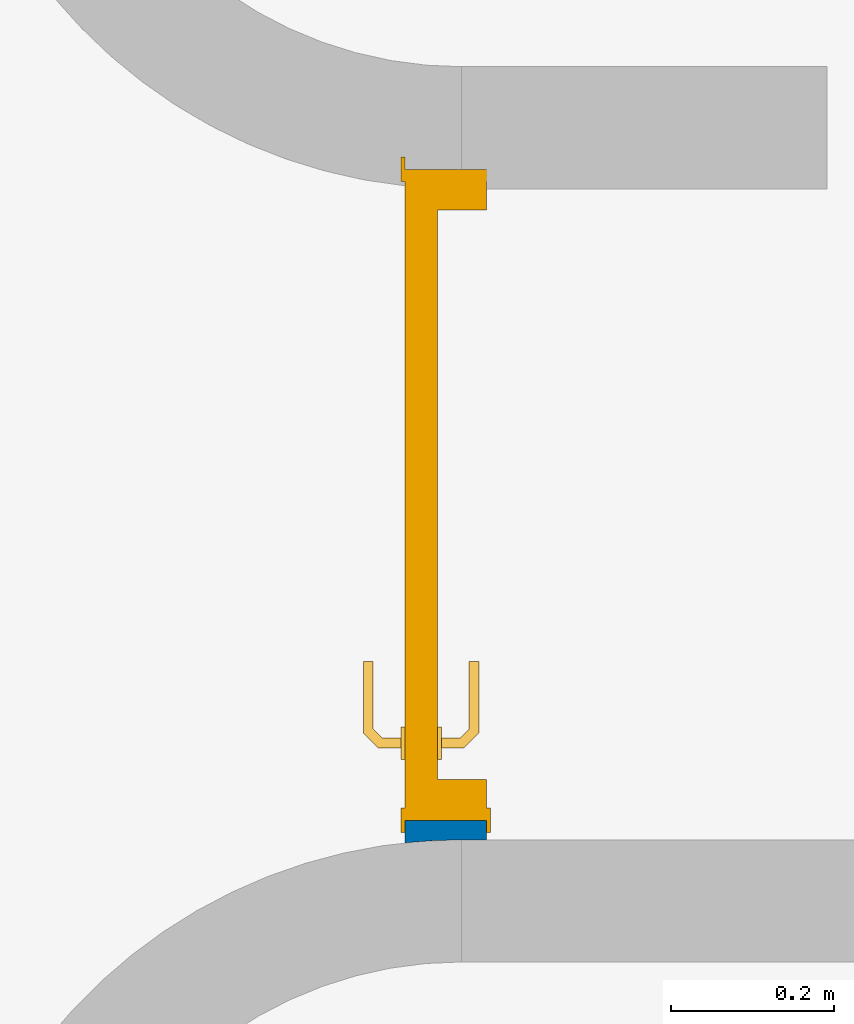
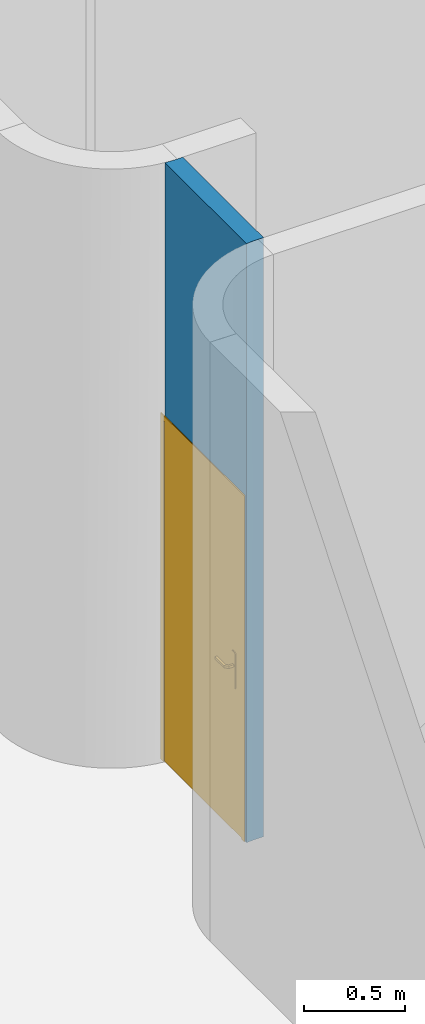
# One storey, part 8 of 9: 1 door, 1 wall, 1 opening.
"""IFC2X3 building model written with IfcOpenShell, lengths in metres."""

from ifc_helpers import new_model, entity, si_unit, converted_unit, derived_unit, direction, frame, frame_2d, origin, place, context, subcontext, project, spatial, rectangle, extrude, faceted_brep, source, transform, mapped, material, material_list, layer, layer_set, type_object, type_shapes, element, fill, save


model = new_model("IFC2X3")

# Units and contexts
model_context = context("Model", 3, precision=1e-05, world=origin(), true_north=direction((6.12303176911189e-17, 1.0)))
body_context = subcontext(model_context, "Body", "Model", "MODEL_VIEW")
ifc_project = project(units=[si_unit("LENGTHUNIT", "METRE"), si_unit("AREAUNIT", "SQUARE_METRE"), si_unit("VOLUMEUNIT", "CUBIC_METRE"), converted_unit("PLANEANGLEUNIT", "DEGREE", entity("IfcRatioMeasure", 0.0174532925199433), si_unit("PLANEANGLEUNIT", "RADIAN"), dimensions=[0, 0, 0, 0, 0, 0, 0]), si_unit("MASSUNIT", "GRAM", prefix="KILO"), derived_unit("MASSDENSITYUNIT", [(si_unit("MASSUNIT", "GRAM", prefix="KILO"), 1), (si_unit("LENGTHUNIT", "METRE"), -3)]), derived_unit("MOMENTOFINERTIAUNIT", [(si_unit("LENGTHUNIT", "METRE"), 4)]), si_unit("TIMEUNIT", "SECOND"), si_unit("FREQUENCYUNIT", "HERTZ"), si_unit("THERMODYNAMICTEMPERATUREUNIT", "DEGREE_CELSIUS"), derived_unit("THERMALTRANSMITTANCEUNIT", [(si_unit("MASSUNIT", "GRAM", prefix="KILO"), 1), (si_unit("THERMODYNAMICTEMPERATUREUNIT", "KELVIN"), -1), (si_unit("TIMEUNIT", "SECOND"), -3)]), derived_unit("VOLUMETRICFLOWRATEUNIT", [(si_unit("LENGTHUNIT", "METRE"), 3), (si_unit("TIMEUNIT", "SECOND"), -1)]), si_unit("ELECTRICCURRENTUNIT", "AMPERE"), si_unit("ELECTRICVOLTAGEUNIT", "VOLT"), si_unit("POWERUNIT", "WATT"), si_unit("FORCEUNIT", "NEWTON", prefix="KILO"), si_unit("ILLUMINANCEUNIT", "LUX"), si_unit("LUMINOUSFLUXUNIT", "LUMEN"), si_unit("LUMINOUSINTENSITYUNIT", "CANDELA"), derived_unit("USERDEFINED", [(si_unit("MASSUNIT", "GRAM", prefix="KILO"), -1), (si_unit("LENGTHUNIT", "METRE"), -2), (si_unit("TIMEUNIT", "SECOND"), 3), (si_unit("LUMINOUSFLUXUNIT", "LUMEN"), 1)]), derived_unit("LINEARVELOCITYUNIT", [(si_unit("LENGTHUNIT", "METRE"), 1), (si_unit("TIMEUNIT", "SECOND"), -1)]), si_unit("PRESSUREUNIT", "PASCAL"), derived_unit("USERDEFINED", [(si_unit("LENGTHUNIT", "METRE"), -2), (si_unit("MASSUNIT", "GRAM", prefix="KILO"), 1), (si_unit("TIMEUNIT", "SECOND"), -2)]), derived_unit("LINEARFORCEUNIT", [(si_unit("MASSUNIT", "GRAM", prefix="KILO"), 1), (si_unit("LENGTHUNIT", "METRE"), 1), (si_unit("TIMEUNIT", "SECOND"), -2), (si_unit("LENGTHUNIT", "METRE"), -1)]), derived_unit("PLANARFORCEUNIT", [(si_unit("MASSUNIT", "GRAM", prefix="KILO"), 1), (si_unit("LENGTHUNIT", "METRE"), 1), (si_unit("TIMEUNIT", "SECOND"), -2), (si_unit("LENGTHUNIT", "METRE"), -2)])], contexts=[model_context])

# Site, building, storey
site_placement = place(None, origin())
site = spatial("IfcSite", under=ifc_project, at=site_placement, Name="Default", CompositionType="ELEMENT")
building_placement = place(site_placement, origin())
building = spatial("IfcBuilding", under=site, at=building_placement, CompositionType="ELEMENT")
storey_placement = place(building_placement, frame((0.0, 0.0, 0.253308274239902)))
storey = spatial("IfcBuildingStorey", under=building, at=storey_placement, Name="Niveau 00 - 01", CompositionType="ELEMENT", Elevation=0.253308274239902)

# Wall, opening, door
ifc_material_1 = material(Name="Mur par défaut")
ifc_layer = layer(ifc_material_1, 0.1)
ifc_layer_set = layer_set([ifc_layer], Name="Mur de base:@_Générique - Int. 100 mm")
wall_type = type_object("IfcWallType", Name="Mur de base:@_Générique - Int. 100 mm", PredefinedType="STANDARD", material=ifc_layer_set)
wall_placement = place(storey_placement, frame((-15.3131997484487, -5.55535911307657, 0.0), z_axis=(0.0, 0.0, 1.0), x_axis=(0.0, -1.0, 0.0)))
wall = element("IfcWall", 1, at=wall_placement, inside=storey, type_object=wall_type, Name="Mur de base:@_Générique - Int. 100 mm", ObjectType="Mur de base:@_Générique - Int. 100 mm", context=body_context, shape_type="Brep", body=[
    faceted_brep([(0.779807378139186, -0.0500000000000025, 2.075), (0.779807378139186, -0.0500000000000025, 0.0), (0.807390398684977, -0.0500000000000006, 0.0), (0.807390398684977, -0.0500000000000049, 0.222553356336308), (0.807390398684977, -0.0500000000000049, 0.445106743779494), (0.807390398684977, -0.0500000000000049, 0.66766013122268), (0.807390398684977, -0.0500000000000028, 0.890213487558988), (0.807390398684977, -0.0500000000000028, 1.11998068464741), (0.807390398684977, -0.0500000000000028, 1.34974788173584), (0.807390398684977, -0.0500000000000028, 1.57951504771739), (0.807390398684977, -0.0500000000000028, 1.80928224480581), (0.807390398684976, -0.0500000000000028, 2.03904944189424), (0.807390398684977, -0.0500000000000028, 2.26881660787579), (0.807390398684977, -0.0500000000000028, 2.49858380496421), (0.807390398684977, -0.0500000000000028, 2.72835100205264), (0.807390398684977, -0.0500000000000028, 2.95090435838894), (0.807390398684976, -0.0500000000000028, 3.17345774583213), (0.807390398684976, -0.0500000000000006, 3.39601113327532), (0.807390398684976, -0.0500000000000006, 3.61856448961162), (0.0, -0.0500000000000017, 3.61856448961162), (0.0, -0.0500000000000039, 3.17345776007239), (0.0, -0.050000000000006, 2.84678224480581), (0.0, -0.050000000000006, 2.52010672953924), (0.0, -0.0500000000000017, 2.075), (0.779807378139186, 0.0499999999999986, 2.075), (0.0029655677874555, 0.0499999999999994, 2.075), (0.00296556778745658, 0.0499999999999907, 2.52010672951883), (0.0029655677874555, 0.0499999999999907, 2.96521345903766), (0.0029655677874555, 0.0499999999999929, 3.17345776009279), (0.0029655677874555, 0.0499999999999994, 3.61856448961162), (0.803695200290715, 0.0500000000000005, 3.61856448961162), (0.803695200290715, 0.0500000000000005, 0.0), (0.779807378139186, 0.0499999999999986, 0.0), (0.803695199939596, 0.0192105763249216, 0.0), (0.804619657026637, -0.015443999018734, 0.0), (0.00351297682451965, 0.0346007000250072, 2.075), (0.00351297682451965, 0.0346007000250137, 3.61856448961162), (0.00277110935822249, -0.0154371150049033, 2.075), (0.00340956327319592, -5.7139949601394e-05, 2.42666438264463), (0.00369519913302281, 0.0192105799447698, 2.075), (0.00367363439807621, 0.0139158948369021, 2.74799999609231), (0.00277110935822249, -0.015437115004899, 3.61856448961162), (0.00340956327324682, -5.71399478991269e-05, 3.06933560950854), (0.00369519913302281, 0.0192105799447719, 3.61856448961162), (0.804716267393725, -0.0172084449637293, 2.49858378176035), (0.804619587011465, -0.0154426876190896, 3.28472407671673), (0.803695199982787, 0.0192132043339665, 3.17345775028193), (0.803695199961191, 0.019211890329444, 3.39601111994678), (0.803695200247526, 0.0192293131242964, 0.445106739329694), (0.804619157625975, -0.0154346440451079, 0.663045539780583), (0.804619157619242, -0.0154346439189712, 0.33381967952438), (0.804619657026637, -0.015443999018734, 3.61856448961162), (0.804599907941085, -0.0150721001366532, 2.25451931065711), (0.803695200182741, 0.019225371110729, 1.11276684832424), (0.803695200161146, 0.0192240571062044, 1.33532021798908), (0.804619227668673, -0.0154359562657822, 1.11275645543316), (0.804720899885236, -0.0172909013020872, 1.34594896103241), (0.803695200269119, 0.019230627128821, 0.222553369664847), (0.803695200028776, 0.0192160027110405, 2.6994957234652), (0.804758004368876, -0.0179447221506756, 2.72740194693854), (0.804469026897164, -0.012497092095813, 0.887901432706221), (0.804619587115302, -0.015442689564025, 2.95558469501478), (0.80452744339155, -0.0136713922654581, 2.01018426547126), (0.803695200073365, 0.0192187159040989, 2.23996134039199), (0.803695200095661, 0.0192200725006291, 2.01019414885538), (0.803695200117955, 0.0192214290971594, 1.78042695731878), (0.804716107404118, -0.0172055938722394, 1.57951501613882), (0.80369520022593, 0.0192279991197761, 0.667660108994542), (0.803695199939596, 0.0192105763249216, 3.61856448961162), (0.803695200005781, 0.0192146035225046, 2.93647673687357), (0.803695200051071, 0.0192173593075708, 2.4697285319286), (0.80369520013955, 0.0192227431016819, 1.55787358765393), (0.803695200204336, 0.0192266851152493, 0.890213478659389)], [[[0, 1, 2, 3, 4, 5, 6, 7, 8, 9, 10, 11, 12, 13, 14, 15, 16, 17, 18, 19, 20, 21, 22, 23]], [[24, 25, 26, 27, 28, 29, 30, 31, 32]], [[2, 1, 32, 31, 33, 34]], [[26, 25, 35]], [[28, 36, 29]], [[37, 38, 39]], [[21, 40, 22]], [[35, 38, 26]], [[22, 37, 23]], [[20, 19, 41]], [[38, 37, 22]], [[42, 20, 41]], [[40, 27, 26]], [[41, 43, 42]], [[42, 43, 28]], [[39, 38, 35]], [[42, 28, 27]], [[36, 28, 43]], [[42, 21, 20]], [[40, 38, 22]], [[27, 40, 42]], [[42, 40, 21]], [[38, 40, 26]], [[13, 12, 44]], [[45, 46, 47]], [[48, 49, 50]], [[45, 51, 17]], [[12, 52, 44]], [[53, 54, 55]], [[49, 6, 5, 4, 3, 50]], [[54, 56, 55]], [[57, 48, 50]], [[58, 59, 44]], [[6, 60, 55]], [[51, 45, 47]], [[45, 16, 61]], [[50, 34, 57]], [[52, 62, 63]], [[64, 63, 62, 65]], [[56, 66, 8]], [[9, 8, 66, 10]], [[50, 3, 34]], [[34, 33, 57]], [[17, 16, 45]], [[49, 67, 60]], [[47, 68, 51]], [[46, 45, 61]], [[17, 51, 18]], [[2, 34, 3]], [[69, 46, 61]], [[61, 15, 59]], [[65, 62, 66]], [[11, 10, 62]], [[59, 13, 44]], [[70, 58, 44]], [[10, 66, 62]], [[71, 65, 66]], [[60, 53, 55]], [[7, 6, 55]], [[14, 13, 59, 15]], [[49, 48, 67]], [[58, 69, 59]], [[61, 16, 15]], [[12, 11, 52]], [[69, 61, 59]], [[11, 62, 52]], [[63, 70, 52]], [[44, 52, 70]], [[72, 53, 60, 67]], [[54, 71, 56]], [[49, 60, 6]], [[71, 66, 56]], [[8, 7, 56]], [[55, 56, 7]], [[68, 31, 30]], [[31, 68, 47, 46, 69, 58, 70, 63, 64, 65, 71, 54, 53, 72, 67, 48, 57]], [[35, 25, 24, 0, 23, 37, 39]], [[0, 24, 32, 1]], [[19, 18, 51, 68, 30, 29, 36, 43, 41]], [[31, 57, 33]]]),
])
opening_placement = place(wall_placement, frame((0.779807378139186, 0.050000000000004, 0.0)))
opening = element("IfcOpeningElement", 2, at=opening_placement, cuts=wall, Name="@_Int. Simple:@_PP (0.73m x 2.04m):1", ObjectType="Opening", context=body_context, shape_type="SweptSolid", body=[
    extrude(rectangle(XDim=2.075, YDim=0.799999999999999, at=frame_2d((1.0375, 0.4), x_axis=(1.0, 0.0))), frame((0.0, 0.0, 0.0), z_axis=(0.0, -1.0, 0.0), x_axis=(0.0, 0.0, 1.0)), (0.0, 0.0, 1.0), 0.1),
])
ifc_material_2 = material(Name="@_Finition Peinture - Blanc satiné")
ifc_material_3 = material(Name="RAL1013-Blanc perle")
ifc_material_list_1 = material_list([ifc_material_2, ifc_material_3])
ifc_material_list_2 = material_list([ifc_material_3, ifc_material_2, ifc_material_3, ifc_material_3])
door_style = type_object("IfcDoorStyle", Name="@_Int. Simple:@_PP (0.73m x 2.04m)", ConstructionType="NOTDEFINED", OperationType="NOTDEFINED", ParameterTakesPrecedence=False, Sizeable=False, material=ifc_material_list_2)
shared_shape = source(origin(), body_context, "Body", "Brep", [
    faceted_brep([(0.795000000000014, -0.00500000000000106, 0.870000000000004), (0.795000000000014, -0.00500000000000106, 1.08), (0.785352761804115, -0.00500000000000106, 1.08399601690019), (0.775000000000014, -0.00500000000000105, 1.08535898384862), (0.764647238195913, -0.00500000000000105, 1.08399601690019), (0.755000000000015, -0.00500000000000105, 1.08), (0.755000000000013, -0.00500000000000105, 0.870000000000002), (0.764647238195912, -0.00500000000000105, 0.866003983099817), (0.775000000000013, -0.00500000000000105, 0.86464101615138), (0.785352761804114, -0.00500000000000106, 0.866003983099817), (0.795000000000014, 0.0, 1.08), (0.795000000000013, 0.0, 0.870000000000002), (0.785352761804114, 0.0, 0.866003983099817), (0.775000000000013, 0.0, 0.86464101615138), (0.764647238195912, 0.0, 0.866003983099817), (0.755000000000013, 0.0, 0.870000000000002), (0.755000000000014, 0.0, 1.08), (0.764647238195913, 0.0, 1.08399601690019), (0.775000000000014, 0.0, 1.08535898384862), (0.785352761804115, 0.0, 1.08399601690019)], [[[0, 1, 2, 3, 4, 5, 6, 7, 8, 9]], [[10, 11, 12, 13, 14, 15, 16, 17, 18, 19]], [[9, 12, 11, 0]], [[8, 13, 12, 9]], [[7, 14, 13, 8]], [[7, 6, 15, 14]], [[15, 6, 5, 16]], [[4, 17, 16, 5]], [[3, 18, 17, 4]], [[2, 19, 18, 3]], [[2, 1, 10, 19]], [[11, 10, 1, 0]]]),
    faceted_brep([(0.795000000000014, 0.0399999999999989, 0.870000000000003), (0.795000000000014, 0.0399999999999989, 1.08), (0.785352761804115, 0.0399999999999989, 1.08399601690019), (0.775000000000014, 0.0399999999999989, 1.08535898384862), (0.764647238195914, 0.0399999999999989, 1.08399601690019), (0.755000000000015, 0.0399999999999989, 1.08), (0.755000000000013, 0.0399999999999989, 0.870000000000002), (0.764647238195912, 0.0399999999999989, 0.866003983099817), (0.775000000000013, 0.0399999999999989, 0.86464101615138), (0.785352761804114, 0.0399999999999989, 0.866003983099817), (0.775000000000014, 0.0449999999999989, 1.08535898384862), (0.785352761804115, 0.0449999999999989, 1.08399601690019), (0.795000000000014, 0.0449999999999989, 1.08), (0.795000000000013, 0.0449999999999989, 0.870000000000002), (0.785352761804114, 0.0449999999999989, 0.866003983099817), (0.775000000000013, 0.0449999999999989, 0.86464101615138), (0.764647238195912, 0.0449999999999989, 0.866003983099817), (0.755000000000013, 0.0449999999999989, 0.870000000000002), (0.755000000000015, 0.0449999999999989, 1.08), (0.764647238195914, 0.0449999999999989, 1.08399601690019)], [[[0, 1, 2, 3, 4, 5, 6, 7, 8, 9]], [[10, 11, 12, 13, 14, 15, 16, 17, 18, 19]], [[4, 19, 18, 5]], [[3, 10, 19, 4]], [[2, 11, 10, 3]], [[2, 1, 12, 11]], [[13, 12, 1, 0]], [[9, 14, 13, 0]], [[8, 15, 14, 9]], [[7, 16, 15, 8]], [[7, 6, 17, 16]], [[17, 6, 5, 18]]]),
    faceted_brep([(0.772974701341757, -0.0050000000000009, 1.00778044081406), (0.777025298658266, -0.00500000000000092, 1.00778044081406), (0.781000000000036, -0.00500000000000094, 1.00699999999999), (0.781000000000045, -0.00500000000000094, 0.992999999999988), (0.777025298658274, -0.00500000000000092, 0.99221955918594), (0.772974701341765, -0.0050000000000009, 0.992219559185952), (0.768999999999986, -0.00500000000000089, 0.993000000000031), (0.768999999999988, -0.00500000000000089, 1.007), (0.777025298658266, -0.0310045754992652, 1.00778044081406), (0.781000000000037, -0.0326509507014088, 1.007), (0.772974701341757, -0.0293267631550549, 1.00778044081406), (0.759298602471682, -0.0430028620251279, 1.00778044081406), (0.760976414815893, -0.0470534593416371, 1.00778044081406), (0.768999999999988, -0.0276803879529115, 1.007), (0.768999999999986, -0.0276803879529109, 0.993000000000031), (0.772974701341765, -0.0293267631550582, 0.992219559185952), (0.777025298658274, -0.0310045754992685, 0.99221955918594), (0.760976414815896, -0.0470534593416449, 0.99221955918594), (0.759298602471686, -0.0430028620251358, 0.992219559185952), (0.781000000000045, -0.0326509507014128, 0.992999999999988), (0.762622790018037, -0.051028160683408, 1.007), (0.757652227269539, -0.0390281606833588, 1.007), (0.757652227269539, -0.0390281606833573, 0.993000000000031), (0.76262279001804, -0.0510281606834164, 0.992999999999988), (0.674981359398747, -0.0510281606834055, 1.007), (0.674981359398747, -0.0470534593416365, 1.00778044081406), (0.674981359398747, -0.0430028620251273, 1.00778044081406), (0.674981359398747, -0.0390281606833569, 1.00699999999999), (0.674981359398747, -0.0390281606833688, 0.993000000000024), (0.674981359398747, -0.0430028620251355, 0.992219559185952), (0.674981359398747, -0.0470534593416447, 0.99221955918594), (0.674981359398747, -0.0510281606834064, 0.992999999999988), (0.71713998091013, -0.045028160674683, 1.0078786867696), (0.722692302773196, -0.051028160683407, 1.007), (0.716316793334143, -0.039028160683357, 1.007), (0.716316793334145, -0.0390281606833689, 0.993000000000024), (0.717139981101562, -0.0450281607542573, 0.992121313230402), (0.722692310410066, -0.0510281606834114, 0.992999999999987)], [[[0, 1, 2, 3, 4, 5, 6, 7]], [[2, 1, 8, 9]], [[1, 0, 10, 11, 12, 8]], [[0, 7, 13, 10]], [[14, 13, 7, 6]], [[5, 15, 14, 6]], [[5, 4, 16, 17, 18, 15]], [[3, 19, 16, 4]], [[9, 19, 3, 2]], [[9, 8, 12, 20]], [[10, 13, 21, 11]], [[22, 21, 13, 14]], [[14, 15, 18, 22]], [[16, 19, 23, 17]], [[20, 23, 19, 9]], [[24, 25, 26, 27, 28, 29, 30, 31]], [[32, 25, 33]], [[33, 25, 24]], [[33, 20, 12]], [[11, 34, 32]], [[34, 11, 21]], [[27, 26, 34]], [[32, 26, 25]], [[32, 34, 26]], [[32, 33, 12]], [[11, 32, 12]], [[21, 22, 35, 28, 27, 34]], [[36, 29, 35]], [[30, 36, 37]], [[18, 35, 22]], [[29, 28, 35]], [[30, 37, 31]], [[37, 17, 23]], [[36, 17, 37]], [[36, 18, 17]], [[36, 35, 18]], [[29, 36, 30]], [[23, 20, 33, 24, 31, 37]]]),
    faceted_brep([(0.772974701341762, 0.0449999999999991, 0.992219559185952), (0.777025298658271, 0.0449999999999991, 0.99221955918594), (0.781000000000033, 0.044999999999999, 0.992999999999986), (0.781000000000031, 0.044999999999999, 1.007), (0.777025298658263, 0.0449999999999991, 1.00778044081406), (0.772974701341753, 0.0449999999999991, 1.00778044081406), (0.768999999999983, 0.0449999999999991, 1.007), (0.768999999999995, 0.0449999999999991, 0.993000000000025), (0.768999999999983, 0.067485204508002, 1.007), (0.768999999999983, 0.0674852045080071, 0.993000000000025), (0.772974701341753, 0.0691315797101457, 1.00778044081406), (0.777025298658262, 0.070809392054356, 1.00778044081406), (0.760838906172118, 0.0869957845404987, 1.00778044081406), (0.759161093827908, 0.0829451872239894, 1.00778044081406), (0.781000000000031, 0.0724557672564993, 1.007), (0.781000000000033, 0.0724557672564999, 0.992999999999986), (0.777025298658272, 0.0708093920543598, 0.99221955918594), (0.772974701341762, 0.0691315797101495, 0.992219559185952), (0.759161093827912, 0.0829451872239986, 0.992219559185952), (0.760838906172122, 0.0869957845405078, 0.99221955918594), (0.757514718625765, 0.0789704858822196, 1.007), (0.757514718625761, 0.0789704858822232, 0.993000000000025), (0.762485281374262, 0.0909704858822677, 1.007), (0.762485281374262, 0.0909704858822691, 0.992999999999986), (0.674954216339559, 0.0829451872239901, 1.00778044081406), (0.674954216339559, 0.0869957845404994, 1.00778044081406), (0.674954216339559, 0.0909704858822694, 1.007), (0.674954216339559, 0.0909704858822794, 0.992999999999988), (0.674954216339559, 0.086995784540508, 0.99221955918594), (0.674954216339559, 0.0829451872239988, 0.992219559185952), (0.674954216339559, 0.0789704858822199, 0.993000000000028), (0.674954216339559, 0.0789704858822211, 1.007), (0.716234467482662, 0.0789704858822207, 1.007), (0.716234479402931, 0.0789704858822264, 0.993000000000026), (0.717057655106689, 0.0849704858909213, 1.0078786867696), (0.722554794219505, 0.0909704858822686, 1.007), (0.722554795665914, 0.0909704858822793, 0.992999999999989), (0.717057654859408, 0.0849704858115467, 0.992121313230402)], [[[0, 1, 2, 3, 4, 5, 6, 7]], [[8, 9, 7, 6]], [[5, 10, 8, 6]], [[5, 4, 11, 12, 13, 10]], [[3, 14, 11, 4]], [[14, 3, 2, 15]], [[2, 1, 16, 15]], [[1, 0, 17, 18, 19, 16]], [[0, 7, 9, 17]], [[20, 21, 9, 8]], [[8, 10, 13, 20]], [[14, 22, 12, 11]], [[23, 22, 14, 15]], [[15, 16, 19, 23]], [[17, 9, 21, 18]], [[24, 25, 26, 27, 28, 29, 30, 31]], [[21, 20, 32, 31, 30, 33]], [[34, 24, 32]], [[25, 34, 35]], [[13, 32, 20]], [[24, 31, 32]], [[25, 35, 26]], [[35, 12, 22]], [[34, 12, 35]], [[34, 13, 12]], [[34, 32, 13]], [[24, 34, 25]], [[22, 23, 36, 27, 26, 35]], [[37, 28, 36]], [[36, 28, 27]], [[36, 23, 19]], [[18, 33, 37]], [[33, 18, 21]], [[30, 29, 33]], [[37, 29, 28]], [[37, 33, 29]], [[37, 36, 19]], [[18, 37, 19]]]),
    faceted_brep([(0.835000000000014, 0.04, 2.04), (0.835000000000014, 0.04, 0.0), (0.105000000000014, 0.04, 0.0), (0.105000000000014, 0.04, 2.04), (0.835000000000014, 0.0, 2.04), (0.105000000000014, 0.0, 2.04), (0.105000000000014, 0.0, 0.0), (0.835000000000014, 0.0, 0.0)], [[[0, 1, 2, 3]], [[4, 5, 6, 7]], [[3, 5, 4, 0]], [[2, 6, 5, 3]], [[1, 7, 6, 2]], [[0, 4, 7, 1]]]),
    faceted_brep([(0.870000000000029, 0.0, 0.0), (0.835000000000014, 0.0, 0.0), (0.835000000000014, 0.040000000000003, 0.0), (0.820000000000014, 0.040000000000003, 0.0), (0.820000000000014, 0.100000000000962, 0.0), (0.870000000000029, 0.100000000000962, 0.0), (0.870000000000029, 0.100000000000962, 2.07500000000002), (0.870000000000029, 0.0, 2.07500000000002), (0.820000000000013, 0.100000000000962, 2.025), (0.120000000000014, 0.100000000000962, 2.025), (0.120000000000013, 0.100000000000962, 0.0), (0.0699999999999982, 0.100000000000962, 0.0), (0.0699999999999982, 0.100000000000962, 2.07500000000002), (0.820000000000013, 0.040000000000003, 2.025), (0.835000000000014, 0.040000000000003, 2.04), (0.105000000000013, 0.040000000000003, 2.04), (0.105000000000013, 0.040000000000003, 0.0), (0.120000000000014, 0.040000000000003, 0.0), (0.120000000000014, 0.040000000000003, 2.025), (0.835000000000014, 0.0, 2.04), (0.0699999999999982, 0.0, 2.07500000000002), (0.0699999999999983, 0.0, 0.0), (0.105000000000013, 0.0, 0.0), (0.105000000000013, 0.0, 2.04)], [[[0, 1, 2, 3, 4, 5]], [[5, 6, 7, 0]], [[4, 8, 9, 10, 11, 12, 6, 5]], [[3, 13, 8, 4]], [[2, 14, 15, 16, 17, 18, 13, 3]], [[1, 19, 14, 2]], [[0, 7, 20, 21, 22, 23, 19, 1]], [[12, 11, 21, 20]], [[21, 11, 10, 17, 16, 22]], [[18, 17, 10, 9]], [[23, 22, 16, 15]], [[6, 12, 20, 7]], [[13, 18, 9, 8]], [[19, 23, 15, 14]]]),
    faceted_brep([(0.855000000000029, 0.100000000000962, 0.0), (0.855000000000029, 0.105000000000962, 0.0), (0.885000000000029, 0.105000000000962, 0.0), (0.885000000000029, 0.100000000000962, 0.0), (0.885000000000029, 0.100000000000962, 2.09000000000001), (0.0550000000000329, 0.100000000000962, 2.09000000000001), (0.055000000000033, 0.100000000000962, 0.0), (0.0850000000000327, 0.100000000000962, 0.0), (0.0850000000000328, 0.100000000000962, 2.06000000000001), (0.855000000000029, 0.100000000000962, 2.06000000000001), (0.885000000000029, 0.105000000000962, 2.09000000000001), (0.855000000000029, 0.105000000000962, 2.06000000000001), (0.0850000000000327, 0.105000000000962, 2.06000000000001), (0.0850000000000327, 0.105000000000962, 0.0), (0.0550000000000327, 0.105000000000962, 0.0), (0.0550000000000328, 0.105000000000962, 2.09000000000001)], [[[0, 1, 2, 3]], [[3, 4, 5, 6, 7, 8, 9, 0]], [[2, 10, 4, 3]], [[1, 11, 12, 13, 14, 15, 10, 2]], [[0, 9, 11, 1]], [[7, 6, 14, 13]], [[8, 7, 13, 12]], [[15, 14, 6, 5]], [[10, 15, 5, 4]], [[9, 8, 12, 11]]]),
    faceted_brep([(0.885000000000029, -0.005, 0.0), (0.885000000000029, -0.005, 2.09000000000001), (0.0550000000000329, -0.005, 2.09000000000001), (0.055000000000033, -0.005, 0.0), (0.0850000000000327, -0.005, 0.0), (0.0850000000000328, -0.005, 2.06000000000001), (0.855000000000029, -0.005, 2.06000000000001), (0.855000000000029, -0.005, 0.0), (0.885000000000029, 0.0, 0.0), (0.885000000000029, 0.0, 2.09000000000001), (0.855000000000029, 0.0, 0.0), (0.855000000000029, 0.0, 2.06000000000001), (0.0850000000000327, 0.0, 2.06000000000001), (0.0850000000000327, 0.0, 0.0), (0.0550000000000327, 0.0, 0.0), (0.0550000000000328, 0.0, 2.09000000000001)], [[[0, 1, 2, 3, 4, 5, 6, 7]], [[8, 9, 1, 0]], [[10, 11, 12, 13, 14, 15, 9, 8]], [[7, 6, 11, 10]], [[5, 4, 13, 12]], [[15, 14, 3, 2]], [[9, 15, 2, 1]], [[6, 5, 12, 11]], [[4, 3, 14, 13]], [[7, 10, 8, 0]]]),
])
type_shapes(door_style, [shared_shape])
door_placement = place(opening_placement, frame((-0.870000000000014, -0.100000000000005, 0.0)))
door = element("IfcDoor", 3, at=door_placement, inside=storey, type_object=door_style, material=ifc_material_list_1, Name="@_Int. Simple:@_PP (0.73m x 2.04m)", ObjectType="@_Int. Simple:@_PP (0.73m x 2.04m)", OverallHeight=2.075, OverallWidth=0.8, context=body_context, shape_type="MappedRepresentation", body=[
    mapped(shared_shape, transform((0.0, 0.0, 0.0), scale=1.0)),
])
fill(opening, door)

save(model, "model.ifc")
